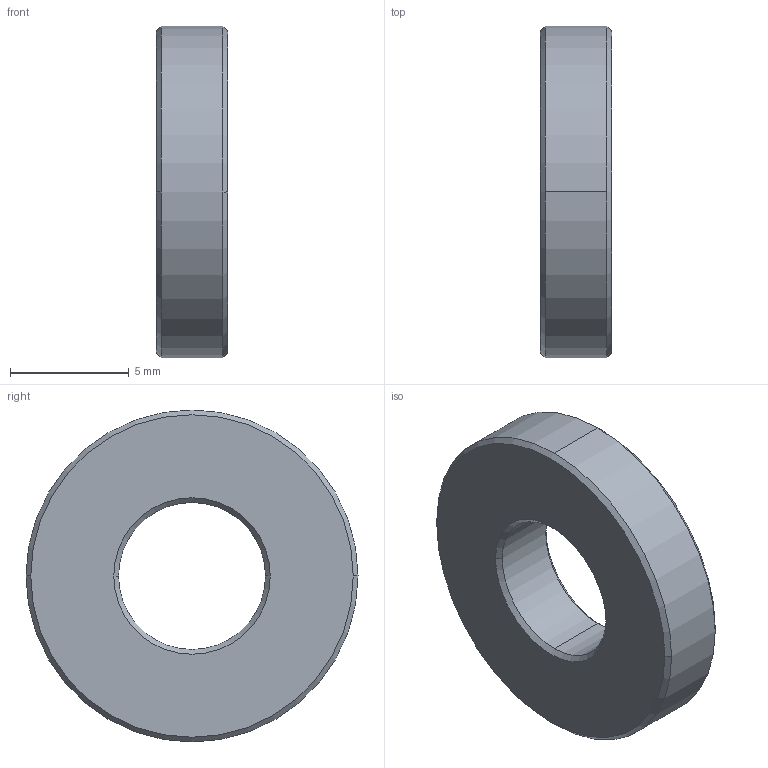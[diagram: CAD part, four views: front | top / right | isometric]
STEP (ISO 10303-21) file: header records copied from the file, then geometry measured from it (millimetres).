
FILE_DESCRIPTION (( 'STEP AP203' ), '1' );
FILE_NAME ('029 Rondelle.STEP', '2021-10-27T18:27:15', ( '' ), ( '' ), 'SwSTEP 2.0', 'SolidWorks 2019', '' );
FILE_SCHEMA (( 'CONFIG_CONTROL_DESIGN' ));
Length unit declared in the file: millimetre
Products named in the file (1): 029 Rondelle
Bounding box: 3 x 14 x 14 mm (x, y, z)
Volume: 368.7 mm3; surface area: 423 mm2
Topology: 1 solids, 1 shells, 14 faces, 36 edges, 24 vertices
Faces by surface type: bspline 8, cylinder 4, plane 2
Entity records: 549 total; most frequent: CARTESIAN_POINT 131, DIRECTION 74, ORIENTED_EDGE 72, EDGE_CURVE 36, AXIS2_PLACEMENT_3D 31, VERTEX_POINT 24, CIRCLE 24, EDGE_LOOP 16
